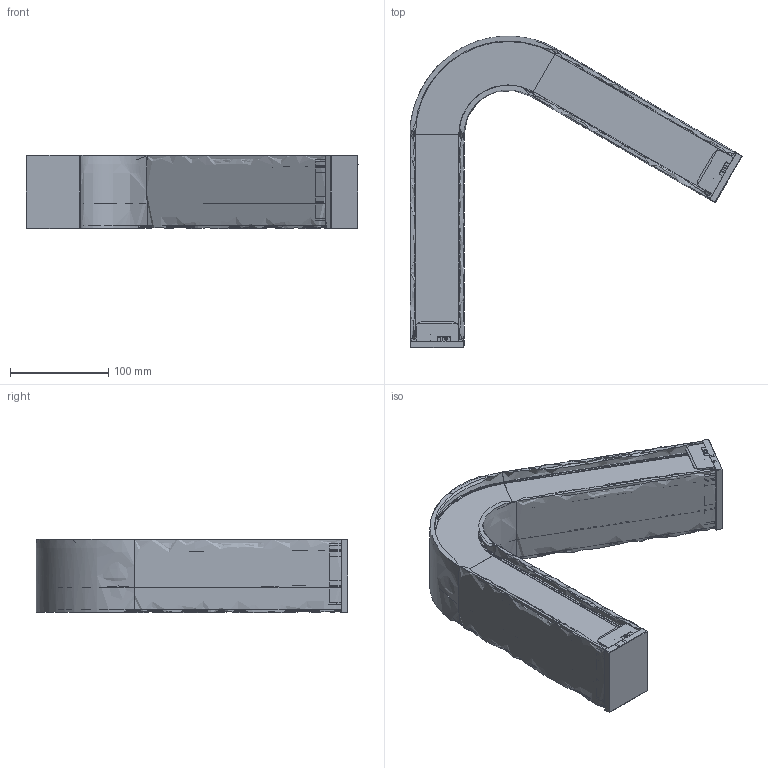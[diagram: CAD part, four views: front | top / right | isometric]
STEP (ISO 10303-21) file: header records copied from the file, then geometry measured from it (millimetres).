
FILE_DESCRIPTION(/* description */ (''),/* implementation_level */ '2;1');
FILE_NAME(/* name */ 'KISSA6~1',/* time_stamp */ '2026-04-27T15:51:46+02:00',/* author */ (''),/* organization */ (''),/* preprocessor_version */ 'ST-DEVELOPER v16.5',/* originating_system */ '',/* authorisation */ '');
FILE_SCHEMA (('AUTOMOTIVE_DESIGN'));
Products named in the file (1): Document
Bounding box: 337.44 x 316.74 x 75 mm (x, y, z)
Volume: 258542.1 mm3; surface area: 458203.2 mm2
Topology: 9 solids, 9 shells, 1922 faces, 5268 edges, 3366 vertices
Faces by surface type: bspline 1922
Entity records: 168380 total; most frequent: CARTESIAN_POINT 101207, B_SPLINE_CURVE_WITH_KNOTS 14547, ORIENTED_EDGE 10512, PCURVE 10512, DEFINITIONAL_REPRESENTATION 10512, SURFACE_CURVE 5256, EDGE_CURVE 5256, VERTEX_POINT 3366
